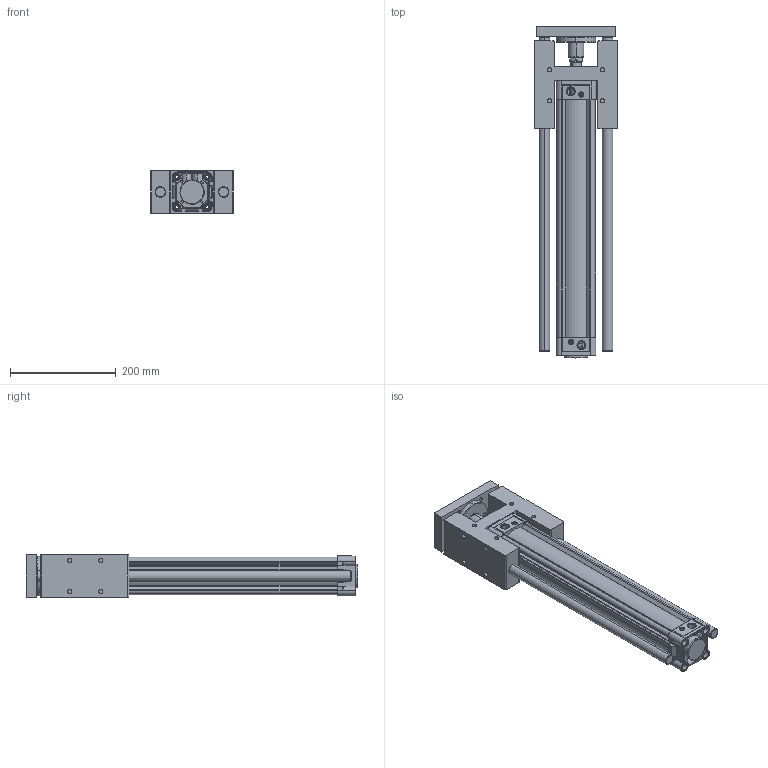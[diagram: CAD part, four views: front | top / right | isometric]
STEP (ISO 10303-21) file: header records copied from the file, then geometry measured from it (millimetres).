
FILE_DESCRIPTION (( 'STEP AP203' ), '1' );
FILE_NAME ('KDNT63X400H-YATAK.STEP', '2016-05-18T13:10:29', ( 'user' ), ( '' ), 'SwSTEP 2.0', 'SolidWorks 2013', '' );
FILE_SCHEMA (( 'CONFIG_CONTROL_DESIGN' ));
Length unit declared in the file: millimetre
Products named in the file (11): Piston Mili 63x400; DNC-H-YATAK 63; SOMUN 63; DNC-H-YATAK M尳 63X400; DNC-H-YATAK TABLA 63; DNC-H-YATAK MÝL YATAÐI 63; ARKA KAPAK  63; KDNT 63X400 BORU; ORTA PÝSTON 63; KDNT63X400H-YATAK; 烰 KAPAK  63
Assembly tree (11 placements, depth 2):
  KDNT63X400H-YATAK
    DNC-H-YATAK 63
    DNC-H-YATAK M尳 63X400  x2
    DNC-H-YATAK TABLA 63
    DNC-H-YATAK MÝL YATAÐI 63
    ARKA KAPAK  63
    KDNT 63X400 BORU
    ORTA PÝSTON 63
    烰 KAPAK  63
    Piston Mili 63x400
    SOMUN 63
Bounding box: 157 x 628.7 x 80.5 mm (x, y, z)
Volume: 2591873.8 mm3; surface area: 712134.6 mm2
Topology: 11 solids, 11 shells, 1031 faces, 2596 edges, 1664 vertices
Faces by surface type: cylinder 516, plane 333, cone 94, bspline 76, torus 12
Entity records: 40560 total; most frequent: CARTESIAN_POINT 15027, ORIENTED_EDGE 5156, DIRECTION 5020, EDGE_CURVE 2578, AXIS2_PLACEMENT_3D 1957, VERTEX_POINT 1656, EDGE_LOOP 1202, LINE 1106
